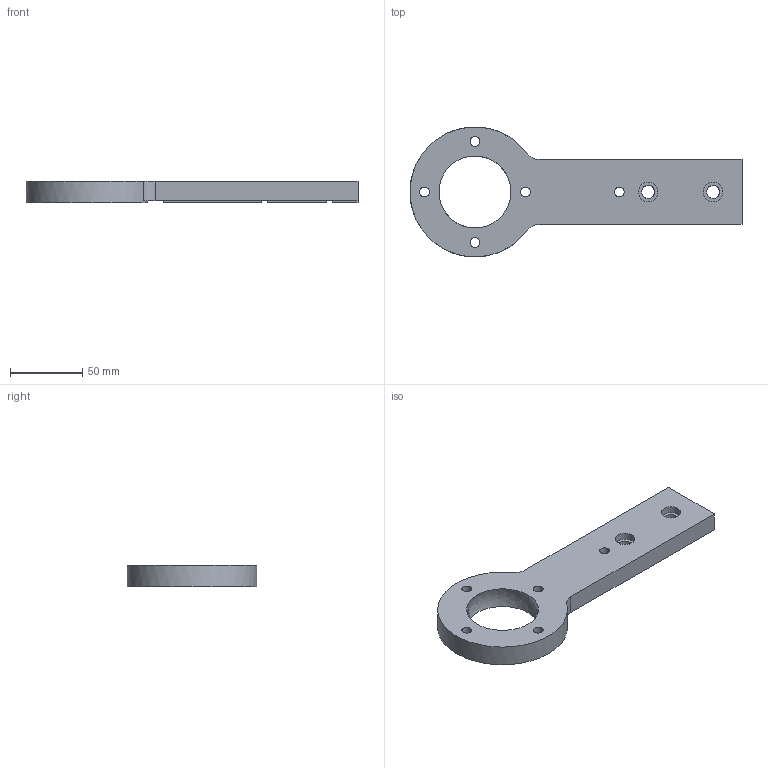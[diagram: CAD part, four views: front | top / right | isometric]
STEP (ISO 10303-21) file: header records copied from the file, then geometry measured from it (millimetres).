
FILE_DESCRIPTION (( 'STEP AP203' ), '1' );
FILE_NAME ('084.807.001.STEP', '2013-01-29T12:39:28', ( 'Alusic' ), ( 'Alusic' ), 'SwSTEP 2.0', 'SolidWorks 2011', '' );
FILE_SCHEMA (( 'CONFIG_CONTROL_DESIGN' ));
Length unit declared in the file: millimetre
Products named in the file (1): 084.807.001
Bounding box: 230 x 90 x 15 mm (x, y, z)
Volume: 145244.2 mm3; surface area: 34570.4 mm2
Topology: 1 solids, 1 shells, 60 faces, 177 edges, 117 vertices
Faces by surface type: plane 29, cylinder 28, sphere 3
Entity records: 2094 total; most frequent: DIRECTION 371, CARTESIAN_POINT 345, ORIENTED_EDGE 342, EDGE_CURVE 171, AXIS2_PLACEMENT_3D 140, VERTEX_POINT 114, VECTOR 91, LINE 91
